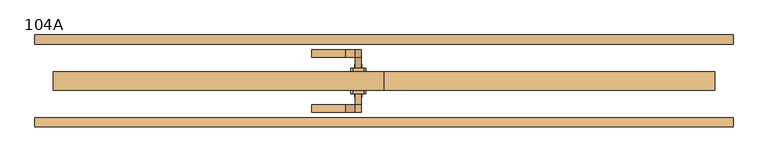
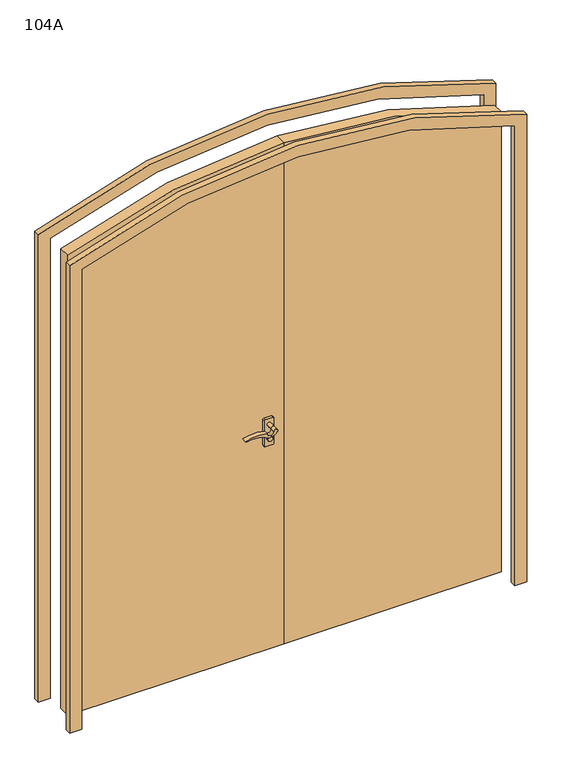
"""IFC4 building model written with IfcOpenShell, lengths in millimetres: door geometry, 双开门(恢复) : 104A."""

import ifcopenshell
import ifcopenshell.guid

model = None  # the IFC model being written
_history = None  # IfcOwnerHistory: only IFC2X3 demands one
_inside = {}  # id of a spatial element -> (the spatial element, [elements in it])
_under = {}  # id of a project, library or spatial element -> (it, [spatial elements below it])
_declared = {}  # id of a project -> (the project, [libraries it declares])
_typed = {}  # id of a type object -> (the type object, [elements of that type])
_made_of = {}  # id of a material, layer set ... -> (it, [elements and type objects made of it])


def new_model(schema):
    """Start an empty IFC model of exactly this schema.

    Asked for "IFC4X3", IfcOpenShell would pick the latest addendum, in which some entities
    have other attributes; the version numbers below select the first issue.
    IFC2X3 requires an IfcOwnerHistory on every rooted entity: one is made here for all.
    """
    global model, _history
    if schema == "IFC4X3":
        model = ifcopenshell.file(schema_version=(4, 3, 0, 0))
    else:
        model = ifcopenshell.file(schema=schema)
    _inside.clear()
    _under.clear()
    _declared.clear()
    _typed.clear()
    _made_of.clear()
    _history = None
    if model.schema == "IFC2X3":
        org = make("IfcOrganization", Name="unknown")
        user = make(
            "IfcPersonAndOrganization",
            ThePerson=make("IfcPerson", FamilyName="unknown"),
            TheOrganization=org,
        )
        app = make(
            "IfcApplication",
            ApplicationDeveloper=org,
            Version="unknown",
            ApplicationFullName="unknown",
            ApplicationIdentifier="unknown",
        )
        _history = make(
            "IfcOwnerHistory",
            OwningUser=user,
            OwningApplication=app,
            ChangeAction="ADDED",
            CreationDate=0,
        )
    return model


def make(cls, **values):
    """One entity of the class cls with the attributes given. An attribute that is None is left unset."""
    return model.create_entity(
        cls, **{name: value for name, value in values.items() if value is not None}
    )


def rooted(cls, **values):
    """An entity with a GlobalId (a new one), such as an element, a storey or a relation."""
    return make(cls, GlobalId=ifcopenshell.guid.new(), OwnerHistory=_history, **values)


def si_unit(unit_type, name, prefix=None):
    """IfcSIUnit, for example si_unit("LENGTHUNIT", "METRE", prefix="MILLI")."""
    return make("IfcSIUnit", UnitType=unit_type, Prefix=prefix, Name=name)


def assignment(units):
    """IfcUnitAssignment: the units of a project."""
    return None if units is None else make("IfcUnitAssignment", Units=units)


def point(xyz):
    """IfcCartesianPoint."""
    return None if xyz is None else make("IfcCartesianPoint", Coordinates=xyz)


def direction(xyz):
    """IfcDirection."""
    return None if xyz is None else make("IfcDirection", DirectionRatios=xyz)


def frame(location, z_axis=None, x_axis=None):
    """IfcAxis2Placement3D, a coordinate frame: its origin and axes. An axis left out is left unset."""
    return make(
        "IfcAxis2Placement3D",
        Location=point(location),
        Axis=direction(z_axis),
        RefDirection=direction(x_axis),
    )


def frame_2d(location, x_axis=None):
    """IfcAxis2Placement2D, a coordinate frame in the plane: its origin and x axis."""
    return make(
        "IfcAxis2Placement2D", Location=point(location), RefDirection=direction(x_axis)
    )


def origin():
    """The frame at (0, 0, 0) with its axes left unset."""
    return frame((0.0, 0.0, 0.0))


def place(relative_to, where):
    """IfcLocalPlacement: puts the frame where relative to a parent placement (None: the world)."""
    return make(
        "IfcLocalPlacement", PlacementRelTo=relative_to, RelativePlacement=where
    )


def context(
    kind, dimensions, precision=None, world=None, true_north=None, identifier=None
):
    """IfcGeometricRepresentationContext, for example the 3D "Model" context."""
    return make(
        "IfcGeometricRepresentationContext",
        ContextIdentifier=identifier,
        ContextType=kind,
        CoordinateSpaceDimension=dimensions,
        Precision=precision,
        WorldCoordinateSystem=world,
        TrueNorth=true_north,
    )


def project(units=None, contexts=None):
    """IfcProject with its units and contexts."""
    return rooted(
        "IfcProject",
        Name="project",
        RepresentationContexts=contexts,
        UnitsInContext=assignment(units),
    )


def spatial(cls, under=None, at=None, **own):
    """A site, building, storey or space (cls), placed at a placement, below another one or the project."""
    s = rooted(cls, ObjectPlacement=at, **own)
    if under is not None:
        _under.setdefault(under.id(), (under, []))[1].append(s)
    return s


def polyline(points):
    """IfcPolyline through the points."""
    return make("IfcPolyline", Points=[point(p) for p in points])


def circle_curve(where, radius):
    """IfcCircle in the frame where."""
    return make("IfcCircle", Position=where, Radius=radius)


def trimmed(basis, trim1, trim2, sense, master):
    """IfcTrimmedCurve: the piece of a basis curve between two trims."""
    return make(
        "IfcTrimmedCurve",
        BasisCurve=basis,
        Trim1=trim1,
        Trim2=trim2,
        SenseAgreement=sense,
        MasterRepresentation=master,
    )


def segment(curve, same_sense, transition):
    """IfcCompositeCurveSegment."""
    return make(
        "IfcCompositeCurveSegment",
        Transition=transition,
        SameSense=same_sense,
        ParentCurve=curve,
    )


def composite_curve(segments, self_intersect=None):
    """IfcCompositeCurve: segments joined end to end."""
    return make("IfcCompositeCurve", Segments=segments, SelfIntersect=self_intersect)


def outline(outer, holes=None, kind="AREA"):
    """IfcArbitraryClosedProfileDef: a profile drawn as a closed curve; with holes, ...WithVoids."""
    if holes is None:
        return make("IfcArbitraryClosedProfileDef", ProfileType=kind, OuterCurve=outer)
    return make(
        "IfcArbitraryProfileDefWithVoids",
        ProfileType=kind,
        OuterCurve=outer,
        InnerCurves=holes,
    )


def extrude(swept, where, along, depth):
    """IfcExtrudedAreaSolid: the profile swept, set in the frame where, extruded along a direction by depth."""
    return make(
        "IfcExtrudedAreaSolid",
        SweptArea=swept,
        Position=where,
        ExtrudedDirection=direction(along),
        Depth=depth,
    )


def shape(context_of_items, identifier, shape_type, items):
    """IfcShapeRepresentation: the items that make up one representation, for example the "Body"."""
    return make(
        "IfcShapeRepresentation",
        ContextOfItems=context_of_items,
        RepresentationIdentifier=identifier,
        RepresentationType=shape_type,
        Items=items,
    )


def source(mapping_origin, context_of_items, identifier, shape_type, items):
    """IfcRepresentationMap: a shape defined once, which mapped items show again and again."""
    return make(
        "IfcRepresentationMap",
        MappingOrigin=mapping_origin,
        MappedRepresentation=shape(context_of_items, identifier, shape_type, items),
    )


def transform(
    local_origin,
    x_axis=None,
    y_axis=None,
    z_axis=None,
    scale=None,
    scale2=None,
    scale3=None,
    uniform=True,
):
    """IfcCartesianTransformationOperator3D, or its non-uniform kind. x_axis, y_axis, z_axis: its Axis1, 2, 3."""
    if uniform:
        return make(
            "IfcCartesianTransformationOperator3D",
            Axis1=direction(x_axis),
            Axis2=direction(y_axis),
            LocalOrigin=point(local_origin),
            Scale=scale,
            Axis3=direction(z_axis),
        )
    return make(
        "IfcCartesianTransformationOperator3DnonUniform",
        Axis1=direction(x_axis),
        Axis2=direction(y_axis),
        LocalOrigin=point(local_origin),
        Scale=scale,
        Axis3=direction(z_axis),
        Scale2=scale2,
        Scale3=scale3,
    )


def mapped(mapping_source, mapping_target):
    """IfcMappedItem: shows the shape of a source again, moved by a transform."""
    return make(
        "IfcMappedItem", MappingSource=mapping_source, MappingTarget=mapping_target
    )


def made_of(thing, what):
    """Note that an element or type object is made of a material, layer set ...; save() writes the relation."""
    if what is not None:
        _made_of.setdefault(what.id(), (what, []))[1].append(thing)
    return thing


def element(
    cls,
    number,
    at=None,
    inside=None,
    cuts=None,
    type_object=None,
    material=None,
    context=None,
    identifier="Body",
    shape_type=None,
    held_by="IfcProductDefinitionShape",
    body=None,
    shapes=None,
    **own,
):
    """One element of the class cls, such as IfcWall. Its Tag is "e" and its number.

    at: its placement. inside: the storey or other place that contains it. cuts: it is an
    opening in that element (IfcRelVoidsElement). A single representation is given by context,
    identifier, shape_type and body (its items); several are given by shapes. held_by: the class
    of the entity that holds the representations. save() writes the other relations.
    """
    e = rooted(cls, Tag="e%d" % number, ObjectPlacement=at, **own)
    if body is not None:
        shapes = [shape(context, identifier, shape_type, body)]
    if shapes is not None:
        e.Representation = make(held_by, Representations=shapes)
    if inside is not None:
        _inside.setdefault(inside.id(), (inside, []))[1].append(e)
    if cuts is not None:
        rooted(
            "IfcRelVoidsElement", RelatingBuildingElement=cuts, RelatedOpeningElement=e
        )
    if type_object is not None:
        _typed.setdefault(type_object.id(), (type_object, []))[1].append(e)
    return made_of(e, material)


def aggregate(whole, parts):
    """IfcRelAggregates: a whole, such as a stair, and the parts it consists of."""
    return rooted("IfcRelAggregates", RelatingObject=whole, RelatedObjects=parts)


def save(model, path):
    """Write the relations noted so far, then the file.

    IfcRelAggregates (storeys below a building ...), IfcRelContainedInSpatialStructure (elements
    in a storey), IfcRelDefinesByType, IfcRelAssociatesMaterial and IfcRelDeclares: one each for
    every whole, place, type object, material and project.
    """
    for whole, parts in _under.values():
        aggregate(whole, parts)
    for where, things in _inside.values():
        rooted(
            "IfcRelContainedInSpatialStructure",
            RelatedElements=things,
            RelatingStructure=where,
        )
    for kind, things in _typed.values():
        rooted("IfcRelDefinesByType", RelatedObjects=things, RelatingType=kind)
    for what, things in _made_of.values():
        rooted("IfcRelAssociatesMaterial", RelatedObjects=things, RelatingMaterial=what)
    for by, libraries in _declared.values():
        rooted("IfcRelDeclares", RelatingContext=by, RelatedDefinitions=libraries)
    model.write(path)


def plane_surface(at):
    """IfcPlane: the flat surface through the origin of the frame at, square to its z axis."""
    return make("IfcPlane", Position=at)


def cylinder_surface(at, radius):
    """IfcCylindricalSurface: all points at the distance radius from the z axis of the frame at."""
    return make("IfcCylindricalSurface", Position=at, Radius=radius)


def revolved_surface(curve, axis_point, axis_direction):
    """IfcSurfaceOfRevolution: the curve turned about the line through axis_point along axis_direction."""
    return make(
        "IfcSurfaceOfRevolution",
        SweptCurve=make("IfcArbitraryOpenProfileDef", ProfileType="CURVE", Curve=curve),
        AxisPosition=make("IfcAxis1Placement", Location=point(axis_point), Axis=direction(axis_direction)),
    )


def advanced_brep(points, edges, surfaces, faces):
    """IfcAdvancedBrep: a solid bounded by faces that lie on surfaces and meet in shared edges.

    An edge is (start, end): straight between two places in points (the first is 0);
    or (start, end, curve); or (start, end, curve, False) where it runs against its curve.
    A face is (place in surfaces, loops), or (place, loops, False) where it looks against
    its surface's normal. A loop lists edges by number (the first is 1), with a minus sign
    where the edge is run from its end to its start. The first loop is the outer one.
    """
    corners = [point(p) for p in points]
    vertices = [make("IfcVertexPoint", VertexGeometry=c) for c in corners]
    made = []
    for start, end, *more in edges:
        made.append(
            make(
                "IfcEdgeCurve",
                EdgeStart=vertices[start],
                EdgeEnd=vertices[end],
                EdgeGeometry=more[0] if more else make("IfcPolyline", Points=[corners[start], corners[end]]),
                SameSense=more[1] if len(more) > 1 else True,
            )
        )
    hull = []
    for where, loops, *sense in faces:
        bounds = []
        for j, loop in enumerate(loops):
            ring = [make("IfcOrientedEdge", EdgeElement=made[abs(k) - 1], Orientation=k > 0) for k in loop]
            bounds.append(
                make(
                    "IfcFaceOuterBound" if j == 0 else "IfcFaceBound",
                    Bound=make("IfcEdgeLoop", EdgeList=ring),
                    Orientation=True,
                )
            )
        hull.append(make("IfcAdvancedFace", Bounds=bounds, FaceSurface=surfaces[where], SameSense=sense[0] if sense else True))
    return make("IfcAdvancedBrep", Outer=make("IfcClosedShell", CfsFaces=hull))


def door_104a_b8b2b884(model_context):
    return source(origin(), model_context, "Body", "SolidModel", [
        extrude(outline(composite_curve([segment(trimmed(circle_curve(frame_2d((935.0, -70.0)), 10.0), [point((935.0, -80.0))], [point((935.0, -60.0))], False, "CARTESIAN"), True, "CONTINUOUS"), segment(trimmed(circle_curve(frame_2d((935.0, -70.0)), 10.0), [point((935.0, -60.0))], [point((935.0, -80.0))], False, "CARTESIAN"), True, "CONTINUOUS")], self_intersect=False)), frame((0.0, 35.0, 0.0), z_axis=(0.0, 1.0, 0.0), x_axis=(0.0, 0.0, 1.0)), (0.0, 0.0, 1.0), 10.0),
        extrude(outline(composite_curve([segment(trimmed(circle_curve(frame_2d((935.0, -70.0)), 10.0), [point((935.0, -80.0))], [point((935.0, -60.0))], False, "CARTESIAN"), True, "CONTINUOUS"), segment(trimmed(circle_curve(frame_2d((935.0, -70.0)), 10.0), [point((935.0, -60.0))], [point((935.0, -80.0))], False, "CARTESIAN"), True, "CONTINUOUS")], self_intersect=False)), frame((0.0, -45.0, 0.0), z_axis=(0.0, 1.0, 0.0), x_axis=(0.0, 0.0, 1.0)), (0.0, 0.0, 1.0), 10.0),
        extrude(outline(composite_curve([segment(trimmed(circle_curve(frame_2d((995.0, -70.0)), 8.0000034), [point((990.3476652, -63.4918639))], [point((995.0, -78.0000034))], False, "CARTESIAN"), True, "CONTINUOUS"), segment(trimmed(circle_curve(frame_2d((995.0, -91.8559281)), 13.8559247), [point((995.0, -78.0000034))], [point((994.6945887, -105.7084865))], True, "CARTESIAN"), True, "CONTINUOUS"), segment(trimmed(circle_curve(frame_2d((820.9182734, -147.471636)), 178.7242804), [point((994.6945887, -105.7084865))], [point((992.6849677, -196.8535268))], False, "CARTESIAN"), True, "CONTINUOUS"), segment(polyline([(992.6849677, -196.8535268), (989.1494307, -193.3179936)]), True, "CONTINUOUS"), segment(trimmed(circle_curve(frame_2d((876.1214485, -165.1751197)), 116.4789514), [point((989.1494307, -193.3179936))], [point((979.2382475, -111.0061997))], True, "CARTESIAN"), True, "CONTINUOUS"), segment(trimmed(circle_curve(frame_2d((1012.2444372, -93.6675152)), 37.2832209), [point((979.2382475, -111.0061997))], [point((990.3476652, -63.4918639))], False, "CARTESIAN"), True, "CONTINUOUS")], self_intersect=False)), frame((0.0, 65.0, 0.0), z_axis=(0.0, 1.0, 0.0), x_axis=(0.0, 0.0, 1.0)), (0.0, 0.0, 1.0), 20.0),
        extrude(outline(composite_curve([segment(trimmed(circle_curve(frame_2d((995.0000265, -91.8559261)), 13.8559261), [point((995.0000097, -78.0))], [point((994.6945968, -105.7084855))], True, "CARTESIAN"), True, "CONTINUOUS"), segment(trimmed(circle_curve(frame_2d((820.9182829, -147.4716342)), 178.7242789), [point((994.6945968, -105.7084855))], [point((992.6849752, -196.8535264))], False, "CARTESIAN"), True, "CONTINUOUS"), segment(polyline([(992.6849752, -196.8535264), (989.1494413, -193.3179925)]), True, "CONTINUOUS"), segment(trimmed(circle_curve(frame_2d((876.1214595, -165.1751193)), 116.4789508), [point((989.1494413, -193.3179925))], [point((979.2382573, -111.0061984))], True, "CARTESIAN"), True, "CONTINUOUS"), segment(trimmed(circle_curve(frame_2d((1012.2444479, -93.6675129)), 37.2832219), [point((979.2382573, -111.0061984))], [point((990.3476713, -63.4918637))], False, "CARTESIAN"), True, "CONTINUOUS"), segment(trimmed(circle_curve(frame_2d((995.0, -70.0)), 8.0), [point((990.3476713, -63.4918637))], [point((995.0000097, -78.0))], False, "CARTESIAN"), True, "CONTINUOUS")], self_intersect=False)), frame((0.0, -85.0, 0.0), z_axis=(0.0, 1.0, 0.0), x_axis=(0.0, 0.0, 1.0)), (0.0, 0.0, 1.0), 20.0),
        extrude(outline(composite_curve([segment(trimmed(circle_curve(frame_2d((995.0, -70.0)), 8.0), [point((995.0, -78.0))], [point((995.0, -62.0))], False, "CARTESIAN"), True, "CONTINUOUS"), segment(trimmed(circle_curve(frame_2d((995.0, -70.0)), 8.0), [point((995.0, -62.0))], [point((995.0, -78.0))], False, "CARTESIAN"), True, "CONTINUOUS")], self_intersect=False)), frame((0.0, 35.0, 0.0), z_axis=(0.0, 1.0, 0.0), x_axis=(0.0, 0.0, 1.0)), (0.0, 0.0, 1.0), 30.0),
        extrude(outline(composite_curve([segment(trimmed(circle_curve(frame_2d((995.0, -70.0)), 8.0), [point((995.0, -78.0))], [point((995.0, -62.0))], False, "CARTESIAN"), True, "CONTINUOUS"), segment(trimmed(circle_curve(frame_2d((995.0, -70.0)), 8.0), [point((995.0, -62.0))], [point((995.0, -78.0))], False, "CARTESIAN"), True, "CONTINUOUS")], self_intersect=False)), frame((0.0, -65.0, 0.0), z_axis=(0.0, 1.0, 0.0), x_axis=(0.0, 0.0, 1.0)), (0.0, 0.0, 1.0), 30.0),
        extrude(outline(composite_curve([segment(polyline([(905.0, -50.0), (1015.0, -50.0)]), True, "CONTINUOUS"), segment(trimmed(circle_curve(frame_2d((1015.0, -55.0)), 5.0), [point((1015.0, -50.0))], [point((1020.0, -55.0))], False, "CARTESIAN"), True, "CONTINUOUS"), segment(polyline([(1020.0, -55.0), (1020.0, -85.0)]), True, "CONTINUOUS"), segment(trimmed(circle_curve(frame_2d((1015.0, -85.0)), 5.0), [point((1020.0, -85.0))], [point((1015.0, -90.0))], False, "CARTESIAN"), True, "CONTINUOUS"), segment(polyline([(1015.0, -90.0), (905.0, -90.0)]), True, "CONTINUOUS"), segment(trimmed(circle_curve(frame_2d((905.0, -85.0)), 5.0), [point((905.0, -90.0))], [point((900.0, -85.0))], False, "CARTESIAN"), True, "CONTINUOUS"), segment(polyline([(900.0, -85.0), (900.0, -55.0)]), True, "CONTINUOUS"), segment(trimmed(circle_curve(frame_2d((905.0, -55.0)), 5.0), [point((900.0, -55.0))], [point((905.0, -50.0))], False, "CARTESIAN"), True, "CONTINUOUS")], self_intersect=False)), frame((0.0, 25.0, 0.0), z_axis=(0.0, 1.0, 0.0), x_axis=(0.0, 0.0, 1.0)), (0.0, 0.0, 1.0), 10.0),
        extrude(outline(composite_curve([segment(polyline([(905.0, -50.0), (1015.0, -50.0)]), True, "CONTINUOUS"), segment(trimmed(circle_curve(frame_2d((1015.0, -55.0)), 5.0), [point((1015.0, -50.0))], [point((1020.0, -55.0))], False, "CARTESIAN"), True, "CONTINUOUS"), segment(polyline([(1020.0, -55.0), (1020.0, -85.0)]), True, "CONTINUOUS"), segment(trimmed(circle_curve(frame_2d((1015.0, -85.0)), 5.0), [point((1020.0, -85.0))], [point((1015.0, -90.0))], False, "CARTESIAN"), True, "CONTINUOUS"), segment(polyline([(1015.0, -90.0), (905.0, -90.0)]), True, "CONTINUOUS"), segment(trimmed(circle_curve(frame_2d((905.0, -85.0)), 5.0), [point((905.0, -90.0))], [point((900.0, -85.0))], False, "CARTESIAN"), True, "CONTINUOUS"), segment(polyline([(900.0, -85.0), (900.0, -55.0)]), True, "CONTINUOUS"), segment(trimmed(circle_curve(frame_2d((905.0, -55.0)), 5.0), [point((900.0, -55.0))], [point((905.0, -50.0))], False, "CARTESIAN"), True, "CONTINUOUS")], self_intersect=False)), frame((0.0, -35.0, 0.0), z_axis=(0.0, 1.0, 0.0), x_axis=(0.0, 0.0, 1.0)), (0.0, 0.0, 1.0), 10.0),
        advanced_brep(
        [(0.0, -25.0, 2200.0), (0.0, -25.0, 0.0), (900.0, -25.0, 0.0), (900.0, -25.0, 2020.0), (0.0, 25.0, 2200.0), (900.0, 25.0, 2020.0), (900.0, 25.0, 0.0), (0.0, 25.0, 0.0), (650.0, 25.0, 300.0), (650.0, 25.0, 800.0), (150.0, 25.0, 800.0), (150.0, 25.0, 300.0), (150.0, 25.0, 1000.0), (650.0, 25.0, 1000.0), (650.0, 25.0, 1846.3534429), (150.0, 25.0, 1944.6102753), (650.0, 15.0, 800.0), (650.0, 15.0, 300.0), (150.0, 15.0, 300.0), (150.0, 15.0, 800.0), (650.0, 15.0, 1000.0), (150.0, 15.0, 1000.0), (150.0, 15.0, 1944.6102753), (650.0, 15.0, 1846.3534429)],
        [
            (0, 1),
            (1, 2),
            (2, 3),
            (3, 0, circle_curve(frame((0.0, -25.0, -140.0), z_axis=(0.0, -1.0, 0.0), x_axis=(1.0, 0.0, 0.0)), 2340.0)),
            (4, 5, circle_curve(frame((0.0, 25.0, -140.0), z_axis=(0.0, 1.0, 0.0), x_axis=(1.0, 0.0, 0.0)), 2340.0)),
            (5, 6),
            (6, 7),
            (7, 4),
            (8, 9),
            (9, 10),
            (10, 11),
            (11, 8),
            (12, 13),
            (13, 14),
            (14, 15, circle_curve(frame((0.0, 25.0, -140.0), z_axis=(0.0, -1.0, 0.0), x_axis=(-1.0, 0.0, 0.0)), 2090.0)),
            (15, 12),
            (0, 4),
            (7, 1),
            (6, 2),
            (5, 3),
            (16, 17),
            (17, 18),
            (18, 19),
            (19, 16),
            (20, 21),
            (21, 22),
            (22, 23, circle_curve(frame((0.0, 15.0, -140.0), z_axis=(0.0, 1.0, 0.0), x_axis=(-1.0, 0.0, 0.0)), 2090.0)),
            (23, 20),
            (16, 9),
            (8, 17),
            (11, 18),
            (10, 19),
            (20, 13),
            (12, 21),
            (15, 22),
            (14, 23),
        ],
        [
            plane_surface(frame((0.0, -25.0, 0.0), z_axis=(0.0, -1.0, 0.0), x_axis=(0.0, 0.0, -1.0))),
            plane_surface(frame((0.0, 25.0, 0.0), z_axis=(0.0, 1.0, 0.0), x_axis=(0.0, 0.0, 1.0))),
            plane_surface(frame((0.0, -25.0, 2200.0), z_axis=(-1.0, 0.0, 0.0), x_axis=(0.0, 1.0, 0.0))),
            plane_surface(frame((0.0, -25.0, 0.0), z_axis=(0.0, 0.0, -1.0), x_axis=(0.0, 1.0, 0.0))),
            plane_surface(frame((900.0, -25.0, 0.0), z_axis=(1.0, 0.0, 0.0), x_axis=(0.0, 1.0, 0.0))),
            cylinder_surface(frame((0.0, 25.0, -140.0), z_axis=(0.0, -1.0, 0.0), x_axis=(1.0, 0.0, 0.0)), 2340.0),
            plane_surface(frame((150.0, 15.0, 800.0), z_axis=(0.0, 1.0, 0.0), x_axis=(-1.0, 0.0, 0.0))),
            plane_surface(frame((650.0, 15.0, 300.0), z_axis=(-1.0, 0.0, 0.0), x_axis=(0.0, 1.0, 0.0))),
            plane_surface(frame((150.0, 15.0, 300.0), z_axis=(0.0, 0.0, 1.0), x_axis=(0.0, 1.0, 0.0))),
            plane_surface(frame((150.0, 15.0, 800.0), z_axis=(1.0, 0.0, 0.0), x_axis=(0.0, 1.0, 0.0))),
            plane_surface(frame((650.0, 15.0, 800.0), z_axis=(0.0, 0.0, -1.0), x_axis=(0.0, 1.0, 0.0))),
            plane_surface(frame((150.0, 15.0, 1000.0), z_axis=(0.0, 0.0, 1.0), x_axis=(0.0, 1.0, 0.0))),
            plane_surface(frame((150.0, 15.0, 1944.6102753), z_axis=(1.0, 0.0, 0.0), x_axis=(0.0, 1.0, 0.0))),
            revolved_surface(polyline([(-2090.0, 15.0, -140.0), (-2090.0, 25.0, -140.0)]), (0.0, 25.0, -140.0), (0.0, -1.0, 0.0)),
            plane_surface(frame((650.0, 15.0, 1000.0), z_axis=(-1.0, 0.0, 0.0), x_axis=(0.0, 1.0, 0.0))),
        ],
        [
            (0, [[1, 2, 3, 4]]),
            (1, [[5, 6, 7, 8], [9, 10, 11, 12], [13, 14, 15, 16]]),
            (2, [[-1, 17, -8, 18]]),
            (3, [[-2, -18, -7, 19]]),
            (4, [[-3, -19, -6, 20]]),
            (5, [[-4, -20, -5, -17]]),
            (6, [[21, 22, 23, 24]]),
            (6, [[25, 26, 27, 28]]),
            (7, [[-21, 29, -9, 30]]),
            (8, [[-22, -30, -12, 31]]),
            (9, [[-23, -31, -11, 32]]),
            (10, [[-24, -32, -10, -29]]),
            (11, [[-25, 33, -13, 34]]),
            (12, [[-26, -34, -16, 35]]),
            (13, [[-27, -35, -15, 36]]),
            (14, [[-28, -36, -14, -33]]),
        ],
    ),
        advanced_brep(
        [(0.0, -25.0, 0.0), (0.0, -25.0, 2200.0), (-900.0, -25.0, 2020.0), (-900.0, -25.0, 0.0), (0.0, 25.0, 0.0), (-900.0, 25.0, 0.0), (-900.0, 25.0, 2020.0), (0.0, 25.0, 2200.0), (-650.0, 25.0, 800.0), (-650.0, 25.0, 300.0), (-150.0, 25.0, 300.0), (-150.0, 25.0, 800.0), (-650.0, 25.0, 1000.0), (-150.0, 25.0, 1000.0), (-150.0, 25.0, 1944.6102753), (-650.0, 25.0, 1846.3534429), (-650.0, 15.0, 800.0), (-150.0, 15.0, 800.0), (-150.0, 15.0, 300.0), (-650.0, 15.0, 300.0), (-650.0, 15.0, 1000.0), (-650.0, 15.0, 1846.3534429), (-150.0, 15.0, 1944.6102753), (-150.0, 15.0, 1000.0)],
        [
            (0, 1),
            (1, 2, circle_curve(frame((0.0, -25.0, -140.0), z_axis=(0.0, -1.0, 0.0), x_axis=(1.0, 0.0, 0.0)), 2340.0)),
            (2, 3),
            (3, 0),
            (4, 5),
            (5, 6),
            (6, 7, circle_curve(frame((0.0, 25.0, -140.0), z_axis=(0.0, 1.0, 0.0), x_axis=(1.0, 0.0, 0.0)), 2340.0)),
            (7, 4),
            (8, 9),
            (9, 10),
            (10, 11),
            (11, 8),
            (12, 13),
            (13, 14),
            (14, 15, circle_curve(frame((0.0, 25.0, -140.0), z_axis=(0.0, -1.0, 0.0), x_axis=(1.0, 0.0, 0.0)), 2090.0)),
            (15, 12),
            (0, 4),
            (7, 1),
            (6, 2),
            (5, 3),
            (16, 17),
            (17, 18),
            (18, 19),
            (19, 16),
            (20, 21),
            (21, 22, circle_curve(frame((0.0, 15.0, -140.0), z_axis=(0.0, 1.0, 0.0), x_axis=(1.0, 0.0, 0.0)), 2090.0)),
            (22, 23),
            (23, 20),
            (19, 9),
            (8, 16),
            (18, 10),
            (17, 11),
            (23, 13),
            (12, 20),
            (22, 14),
            (21, 15),
        ],
        [
            plane_surface(frame((0.0, -25.0, 3632.4185761), z_axis=(0.0, -1.0, 0.0), x_axis=(0.0, 0.0, 1.0))),
            plane_surface(frame((0.0, 25.0, 3632.4185761), z_axis=(0.0, 1.0, 0.0), x_axis=(0.0, 0.0, -1.0))),
            plane_surface(frame((0.0, -25.0, 0.0), z_axis=(1.0, 0.0, 0.0), x_axis=(0.0, 1.0, 0.0))),
            cylinder_surface(frame((0.0, 25.0, -140.0), z_axis=(0.0, -1.0, 0.0), x_axis=(1.0, 0.0, 0.0)), 2340.0),
            plane_surface(frame((-900.0, -25.0, 2020.0), z_axis=(-1.0, 0.0, 0.0), x_axis=(0.0, 1.0, 0.0))),
            plane_surface(frame((-900.0, -25.0, 0.0), z_axis=(0.0, 0.0, -1.0), x_axis=(0.0, 1.0, 0.0))),
            plane_surface(frame((-650.0, 15.0, 800.0), z_axis=(0.0, 1.0, 0.0), x_axis=(0.0, 0.0, -1.0))),
            plane_surface(frame((-650.0, 15.0, 800.0), z_axis=(1.0, 0.0, 0.0), x_axis=(0.0, 1.0, 0.0))),
            plane_surface(frame((-650.0, 15.0, 300.0), z_axis=(0.0, 0.0, 1.0), x_axis=(0.0, 1.0, 0.0))),
            plane_surface(frame((-150.0, 15.0, 300.0), z_axis=(-1.0, 0.0, 0.0), x_axis=(0.0, 1.0, 0.0))),
            plane_surface(frame((-150.0, 15.0, 800.0), z_axis=(0.0, 0.0, -1.0), x_axis=(0.0, 1.0, 0.0))),
            plane_surface(frame((-650.0, 15.0, 1000.0), z_axis=(0.0, 0.0, 1.0), x_axis=(0.0, 1.0, 0.0))),
            plane_surface(frame((-150.0, 15.0, 1000.0), z_axis=(-1.0, 0.0, 0.0), x_axis=(0.0, 1.0, 0.0))),
            revolved_surface(polyline([(2090.0, 15.0, -140.0), (2090.0, 25.0, -140.0)]), (0.0, 25.0, -140.0), (0.0, -1.0, 0.0)),
            plane_surface(frame((-650.0, 15.0, 1846.3534429), z_axis=(1.0, 0.0, 0.0), x_axis=(0.0, 1.0, 0.0))),
        ],
        [
            (0, [[1, 2, 3, 4]]),
            (1, [[5, 6, 7, 8], [9, 10, 11, 12], [13, 14, 15, 16]]),
            (2, [[-1, 17, -8, 18]]),
            (3, [[-2, -18, -7, 19]]),
            (4, [[-3, -19, -6, 20]]),
            (5, [[-4, -20, -5, -17]]),
            (6, [[21, 22, 23, 24]]),
            (6, [[25, 26, 27, 28]]),
            (7, [[-24, 29, -9, 30]]),
            (8, [[-23, 31, -10, -29]]),
            (9, [[-22, 32, -11, -31]]),
            (10, [[-21, -30, -12, -32]]),
            (11, [[-28, 33, -13, 34]]),
            (12, [[-27, 35, -14, -33]]),
            (13, [[-26, 36, -15, -35]]),
            (14, [[-25, -34, -16, -36]]),
        ],
    ),
        extrude(outline(composite_curve([segment(trimmed(circle_curve(frame_2d((-140.0, 0.0)), 2340.0), [point((2020.0, -900.0))], [point((2020.0, 900.0))], True, "CARTESIAN"), True, "CONTINUOUS"), segment(polyline([(2020.0, 900.0), (0.0, 900.0), (0.0, 950.0), (2053.0800259, 950.0)]), True, "CONTINUOUS"), segment(trimmed(circle_curve(frame_2d((-140.0, 0.0)), 2390.0), [point((2053.0800259, 950.0))], [point((2053.0800259, -950.0))], False, "CARTESIAN"), True, "CONTINUOUS"), segment(polyline([(2053.0800259, -950.0), (0.0, -950.0), (0.0, -900.0), (2020.0, -900.0)]), True, "CONTINUOUS")], self_intersect=False)), frame((0.0, 100.0, 0.0), z_axis=(0.0, 1.0, 0.0), x_axis=(0.0, 0.0, 1.0)), (0.0, 0.0, 1.0), 25.0),
        extrude(outline(composite_curve([segment(polyline([(2053.0800259, -950.0), (0.0, -950.0), (0.0, -900.0), (2020.0, -900.0)]), True, "CONTINUOUS"), segment(trimmed(circle_curve(frame_2d((-140.0, 0.0)), 2340.0), [point((2020.0, -900.0))], [point((2020.0, 900.0))], True, "CARTESIAN"), True, "CONTINUOUS"), segment(polyline([(2020.0, 900.0), (0.0, 900.0), (0.0, 950.0), (2053.0800259, 950.0)]), True, "CONTINUOUS"), segment(trimmed(circle_curve(frame_2d((-140.0, 0.0)), 2390.0), [point((2053.0800259, 950.0))], [point((2053.0800259, -950.0))], False, "CARTESIAN"), True, "CONTINUOUS")], self_intersect=False)), frame((0.0, -125.0, 0.0), z_axis=(0.0, 1.0, 0.0), x_axis=(0.0, 0.0, 1.0)), (0.0, 0.0, 1.0), 25.0),
    ])


if __name__ == "__main__":
    model = new_model("IFC4")
    model_context = context("Model", 3, world=origin())
    ifc_project = project(units=[si_unit("LENGTHUNIT", "METRE", prefix="MILLI")], contexts=[model_context])
    site = spatial("IfcSite", under=ifc_project)
    building = spatial("IfcBuilding", under=site)
    placement = place(None, origin())
    door_104a_shape = door_104a_b8b2b884(model_context)
    element("IfcDoor", 1, ObjectType="双开门(恢复) : 104A", at=placement, inside=building, context=model_context, shape_type="MappedRepresentation", body=[
        mapped(door_104a_shape, transform((0.0, 0.0, 0.0), x_axis=(1.0, 0.0, 0.0), y_axis=(0.0, 1.0, 0.0), z_axis=(0.0, 0.0, 1.0))),
    ])
    save(model, "model.ifc")
